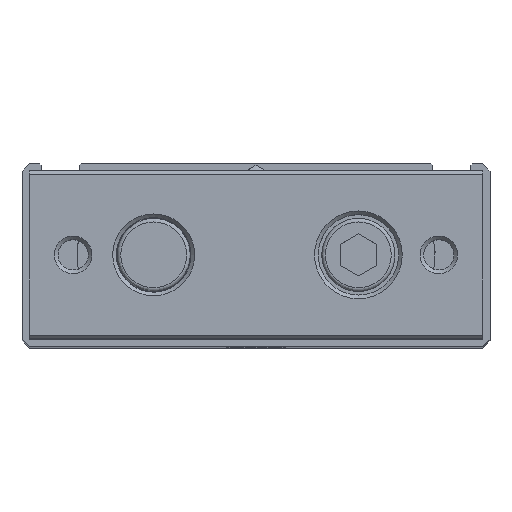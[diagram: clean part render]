
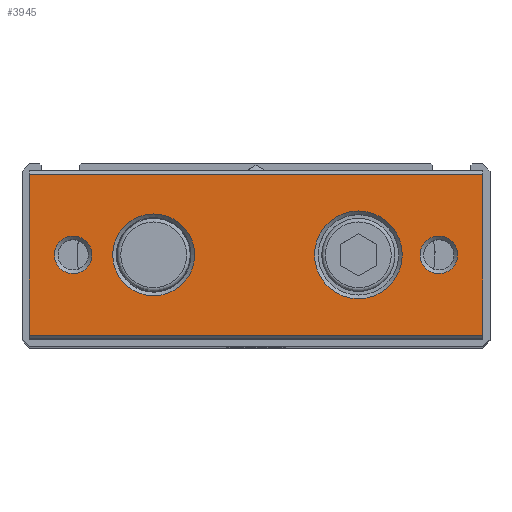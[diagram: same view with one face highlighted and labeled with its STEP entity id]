
A CAD part, top view. The second image highlights one B-rep face of the part: STEP entity #3945.
In plain terms, the highlighted planar face has unit normal (0, 0, 1).
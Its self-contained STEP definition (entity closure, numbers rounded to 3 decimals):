
#3393=CARTESIAN_POINT('',(-31.0,-11.,154.0));
#3394=VERTEX_POINT('',#3393);
#3401=CARTESIAN_POINT('',(-31.0,11.,154.0));
#3402=VERTEX_POINT('',#3401);
#3403=CARTESIAN_POINT('',(-31.0,11.,154.0));
#3404=DIRECTION('',(0.0,-1.0,0.0));
#3405=VECTOR('',#3404,22.);
#3406=LINE('',#3403,#3405);
#3407=EDGE_CURVE('',#3402,#3394,#3406,.T.);
#3521=CARTESIAN_POINT('',(31.0,-11.,154.0));
#3522=VERTEX_POINT('',#3521);
#3529=CARTESIAN_POINT('',(31.0,-11.,154.0));
#3530=DIRECTION('',(-1.0,0.0,0.0));
#3531=VECTOR('',#3530,62.0);
#3532=LINE('',#3529,#3531);
#3533=EDGE_CURVE('',#3522,#3394,#3532,.T.);
#3600=CARTESIAN_POINT('',(31.0,11.,154.0));
#3601=VERTEX_POINT('',#3600);
#3608=CARTESIAN_POINT('',(31.0,-11.,154.0));
#3609=DIRECTION('',(0.0,1.0,0.0));
#3610=VECTOR('',#3609,22.);
#3611=LINE('',#3608,#3610);
#3612=EDGE_CURVE('',#3522,#3601,#3611,.T.);
#3881=CARTESIAN_POINT('',(20.0,0.,154.0));
#3882=VERTEX_POINT('',#3881);
#3883=CARTESIAN_POINT('',(14.0,0.,154.0));
#3884=DIRECTION('',(0.0,0.0,1.0));
#3885=DIRECTION('',(-1.0,0.0,0.0));
#3886=AXIS2_PLACEMENT_3D('',#3883,#3884,#3885);
#3887=CIRCLE('',#3886,6.);
#3888=EDGE_CURVE('',#3882,#3882,#3887,.T.);
#3893=CARTESIAN_POINT('',(0.0,-11.5,154.0));
#3894=DIRECTION('',(0.0,0.0,1.0));
#3895=DIRECTION('',(1.0,0.0,0.0));
#3896=AXIS2_PLACEMENT_3D('',#3893,#3894,#3895);
#3897=PLANE('',#3896);
#3898=ORIENTED_EDGE('',*,*,#3533,.F.);
#3899=ORIENTED_EDGE('',*,*,#3612,.T.);
#3900=CARTESIAN_POINT('',(-31.0,11.,154.0));
#3901=DIRECTION('',(1.0,0.0,0.0));
#3902=VECTOR('',#3901,62.0);
#3903=LINE('',#3900,#3902);
#3904=EDGE_CURVE('',#3402,#3601,#3903,.T.);
#3905=ORIENTED_EDGE('',*,*,#3904,.F.);
#3906=ORIENTED_EDGE('',*,*,#3407,.T.);
#3907=EDGE_LOOP('',(#3898,#3899,#3905,#3906));
#3908=FACE_OUTER_BOUND('',#3907,.T.);
#3909=CARTESIAN_POINT('',(-8.4,0.,154.0));
#3910=VERTEX_POINT('',#3909);
#3911=CARTESIAN_POINT('',(-14.,0.,154.0));
#3912=DIRECTION('',(0.0,0.0,1.0));
#3913=DIRECTION('',(-1.0,0.0,0.0));
#3914=AXIS2_PLACEMENT_3D('',#3911,#3912,#3913);
#3915=CIRCLE('',#3914,5.6);
#3916=EDGE_CURVE('',#3910,#3910,#3915,.T.);
#3917=ORIENTED_EDGE('',*,*,#3916,.F.);
#3918=EDGE_LOOP('',(#3917));
#3919=FACE_BOUND('',#3918,.T.);
#3920=CARTESIAN_POINT('',(27.567,0.,154.0));
#3921=VERTEX_POINT('',#3920);
#3922=CARTESIAN_POINT('',(25.,0.,154.0));
#3923=DIRECTION('',(0.0,0.0,1.0));
#3924=DIRECTION('',(-1.0,0.0,0.0));
#3925=AXIS2_PLACEMENT_3D('',#3922,#3923,#3924);
#3926=CIRCLE('',#3925,2.567);
#3927=EDGE_CURVE('',#3921,#3921,#3926,.T.);
#3928=ORIENTED_EDGE('',*,*,#3927,.F.);
#3929=EDGE_LOOP('',(#3928));
#3930=FACE_BOUND('',#3929,.T.);
#3931=CARTESIAN_POINT('',(-22.433,0.,154.0));
#3932=VERTEX_POINT('',#3931);
#3933=CARTESIAN_POINT('',(-25.0,0.,154.0));
#3934=DIRECTION('',(0.0,0.0,1.0));
#3935=DIRECTION('',(-1.0,0.0,0.0));
#3936=AXIS2_PLACEMENT_3D('',#3933,#3934,#3935);
#3937=CIRCLE('',#3936,2.567);
#3938=EDGE_CURVE('',#3932,#3932,#3937,.T.);
#3939=ORIENTED_EDGE('',*,*,#3938,.F.);
#3940=EDGE_LOOP('',(#3939));
#3941=FACE_BOUND('',#3940,.T.);
#3942=ORIENTED_EDGE('',*,*,#3888,.F.);
#3943=EDGE_LOOP('',(#3942));
#3944=FACE_BOUND('',#3943,.T.);
#3945=ADVANCED_FACE('',(#3908,#3919,#3930,#3941,#3944),#3897,.T.);
